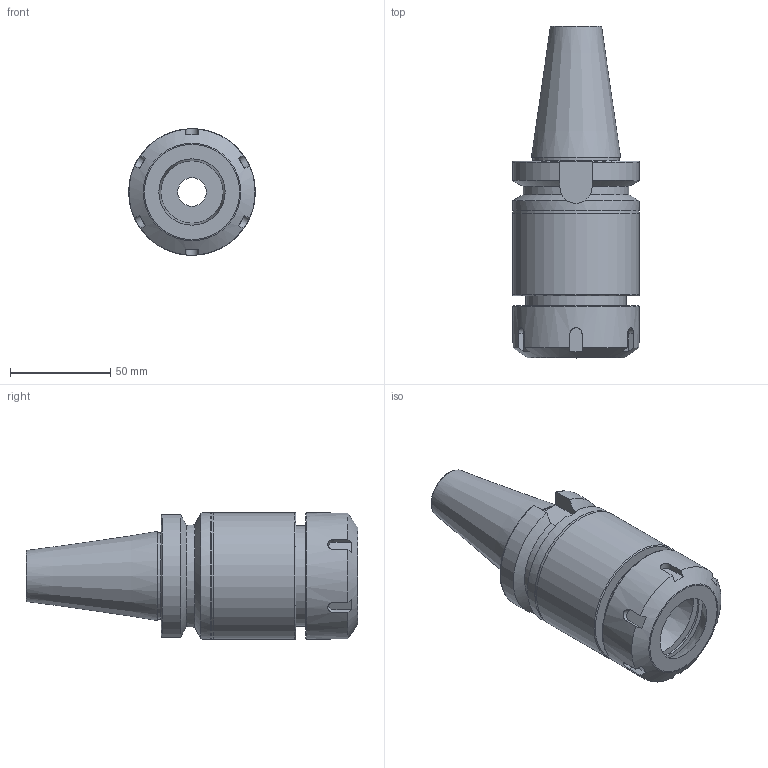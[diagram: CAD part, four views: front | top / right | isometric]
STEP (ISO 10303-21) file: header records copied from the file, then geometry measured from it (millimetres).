
FILE_DESCRIPTION(/* description */ (''),/* implementation_level */ '2;1');
FILE_NAME(/* name */ 'BT40-ER40-100.stp',/* time_stamp */ '2025-06-11T11:12:19+03:00',/* author */ ('User'),/* organization */ (''),/* preprocessor_version */ 'ST-DEVELOPER v19.2',/* originating_system */ 'Autodesk Inventor 2024',/* authorisation */ '');
FILE_SCHEMA (('AUTOMOTIVE_DESIGN { 1 0 10303 214 3 1 1 }'));
Length unit declared in the file: millimetre
Products named in the file (3): BT40-ER25-100; BT40-FMB60-75; ER25-M
Assembly tree (2 placements, depth 2):
  BT40-ER25-100
    BT40-FMB60-75
    ER25-M
Bounding box: 63.2 x 165.4 x 63.2 mm (x, y, z)
Volume: 255700.6 mm3; surface area: 54286.7 mm2
Topology: 2 solids, 2 shells, 79 faces, 204 edges, 137 vertices
Faces by surface type: plane 36, cylinder 23, cone 12, torus 8
Full cylindrical faces by diameter (mm): 14.2 x1, 17 x1, 31.005 x1, 40 x1, 43 x1, 48.5 x2, 50 x1, 63 x2, 63.2 x1
Entity records: 2728 total; most frequent: CARTESIAN_POINT 675, ORIENTED_EDGE 408, DIRECTION 397, EDGE_CURVE 204, AXIS2_PLACEMENT_3D 160, VERTEX_POINT 137, EDGE_LOOP 91, FACE_OUTER_BOUND 79
